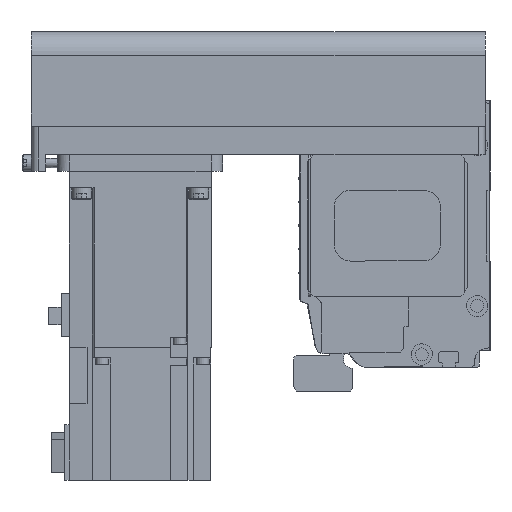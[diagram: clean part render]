
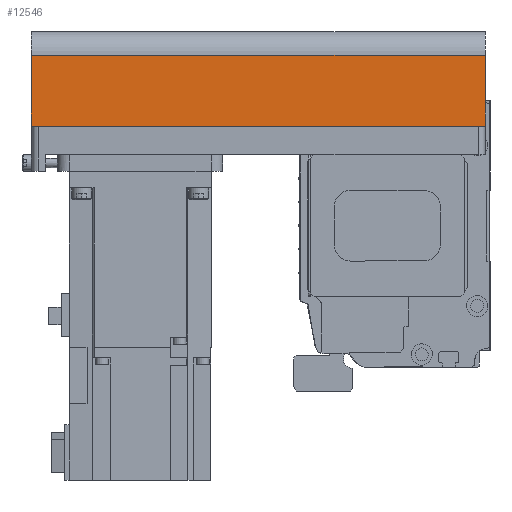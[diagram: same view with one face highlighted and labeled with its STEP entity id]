
A CAD part, left-side view. The second image highlights one B-rep face of the part: STEP entity #12546.
In plain terms, the highlighted planar face has unit normal (-1, 0, 0) as drawn and (0, 1, 0) by its records, which use the part's own axes.
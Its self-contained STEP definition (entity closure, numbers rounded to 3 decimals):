
#2243=ORIENTED_EDGE('',*,*,#5081,.F.);
#2244=ORIENTED_EDGE('',*,*,#5113,.F.);
#2245=ORIENTED_EDGE('',*,*,#5068,.T.);
#2246=ORIENTED_EDGE('',*,*,#5053,.T.);
#5053=EDGE_CURVE('',#6631,#6632,#7895,.T.);
#5068=EDGE_CURVE('',#6643,#6631,#7908,.T.);
#5081=EDGE_CURVE('',#6653,#6632,#7917,.T.);
#5113=EDGE_CURVE('',#6643,#6653,#7929,.T.);
#6631=VERTEX_POINT('',#19583);
#6632=VERTEX_POINT('',#19584);
#6643=VERTEX_POINT('',#19612);
#6653=VERTEX_POINT('',#19639);
#7895=LINE('',#19582,#9123);
#7908=LINE('',#19611,#9136);
#7917=LINE('',#19638,#9145);
#7929=LINE('',#19693,#9157);
#9123=VECTOR('',#15722,1000.);
#9136=VECTOR('',#15743,1000.);
#9145=VECTOR('',#15768,1000.);
#9157=VECTOR('',#15846,1000.);
#10212=EDGE_LOOP('',(#2243,#2244,#2245,#2246));
#11178=FACE_BOUND('',#10212,.T.);
#11977=PLANE('',#13529);
#12546=ADVANCED_FACE('',(#11178),#11977,.T.);
#13529=AXIS2_PLACEMENT_3D('',#19692,#15844,#15845);
#15722=DIRECTION('',(1.,0.,0.));
#15743=DIRECTION('',(0.,0.,1.));
#15768=DIRECTION('',(0.,0.,1.));
#15844=DIRECTION('',(0.,1.,0.));
#15845=DIRECTION('',(0.,0.,1.));
#15846=DIRECTION('',(1.,0.,0.));
#19582=CARTESIAN_POINT('',(-192.,40.,-12.1));
#19583=CARTESIAN_POINT('',(-192.,40.,-12.1));
#19584=CARTESIAN_POINT('',(0.,40.,-12.1));
#19611=CARTESIAN_POINT('',(-192.,40.,-42.));
#19612=CARTESIAN_POINT('',(-192.,40.,-42.));
#19638=CARTESIAN_POINT('',(0.,40.,-42.));
#19639=CARTESIAN_POINT('',(0.,40.,-42.));
#19692=CARTESIAN_POINT('',(-192.,40.,-42.));
#19693=CARTESIAN_POINT('',(-192.,40.,-42.));
